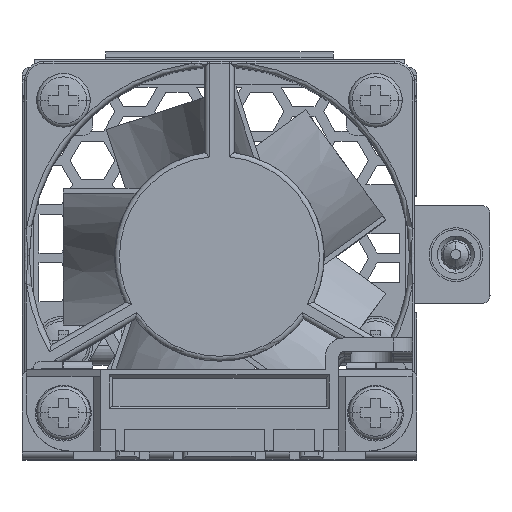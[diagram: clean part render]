
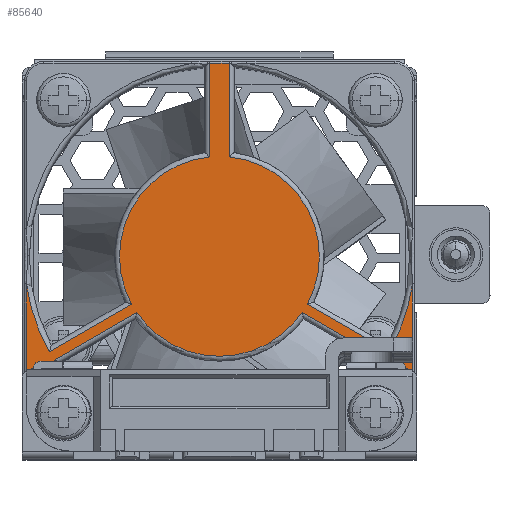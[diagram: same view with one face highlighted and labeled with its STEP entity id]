
A CAD part, top view. The second image highlights one B-rep face of the part: STEP entity #85640.
In plain terms, the highlighted planar face has unit normal (0, 0, 1).
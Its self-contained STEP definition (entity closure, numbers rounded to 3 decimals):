
#83440=CARTESIAN_POINT('',(19.8,2.,56.));
#83450=VERTEX_POINT('',#83440);
#83540=CARTESIAN_POINT('',(18.,0.2,56.));
#83550=VERTEX_POINT('',#83540);
#83580=CARTESIAN_POINT('',(18.,2.,56.));
#83590=DIRECTION('',(0.,0.,-1.));
#83600=DIRECTION('',(1.,0.,0.));
#83610=AXIS2_PLACEMENT_3D('',#83580,#83590,#83600);
#83620=CIRCLE('',#83610,1.8);
#83630=EDGE_CURVE('',#83450,#83550,#83620,.T.);
#83680=CARTESIAN_POINT('',(0.,0.,56.));
#83690=DIRECTION('',(0.,0.,1.));
#83700=DIRECTION('',(1.,0.,0.));
#83710=AXIS2_PLACEMENT_3D('',#83680,#83690,#83700);
#83720=PLANE('',#83710);
#83730=CARTESIAN_POINT('',(1.,30.201,56.));
#83740=DIRECTION('',(0.,1.,0.));
#83750=VECTOR('',#83740,1.);
#83760=LINE('',#83730,#83750);
#83770=CARTESIAN_POINT('',(1.,30.201,56.));
#83780=VERTEX_POINT('',#83770);
#83790=CARTESIAN_POINT('',(1.,39.8,56.));
#83800=VERTEX_POINT('',#83790);
#83810=EDGE_CURVE('',#83780,#83800,#83760,.T.);
#83820=ORIENTED_EDGE('',*,*,#83810,.T.);
#83830=CARTESIAN_POINT('',(0.,20.,56.));
#83840=DIRECTION('',(0.,0.,-1.));
#83850=DIRECTION('',(0.098,0.995,0.));
#83860=AXIS2_PLACEMENT_3D('',#83830,#83840,#83850);
#83870=CIRCLE('',#83860,10.25);
#83880=CARTESIAN_POINT('',(8.999,15.093,56.));
#83890=VERTEX_POINT('',#83880);
#83900=EDGE_CURVE('',#83780,#83890,#83870,.T.);
#83910=ORIENTED_EDGE('',*,*,#83900,.F.);
#83920=CARTESIAN_POINT('',(8.999,15.093,56.));
#83930=DIRECTION('',(0.866,-0.5,0.));
#83940=VECTOR('',#83930,1.);
#83950=LINE('',#83920,#83940);
#83960=CARTESIAN_POINT('',(17.444,10.217,56.));
#83970=VERTEX_POINT('',#83960);
#83980=EDGE_CURVE('',#83890,#83970,#83950,.T.);
#83990=ORIENTED_EDGE('',*,*,#83980,.F.);
#84000=CARTESIAN_POINT('',(0.,20.,56.));
#84010=DIRECTION('',(0.,0.,1.));
#84020=DIRECTION('',(0.872,-0.489,0.));
#84030=AXIS2_PLACEMENT_3D('',#84000,#84010,#84020);
#84040=CIRCLE('',#84030,20.);
#84050=CARTESIAN_POINT('',(19.8,17.179,56.));
#84060=VERTEX_POINT('',#84050);
#84070=EDGE_CURVE('',#83970,#84060,#84040,.T.);
#84080=ORIENTED_EDGE('',*,*,#84070,.F.);
#84090=CARTESIAN_POINT('',(19.8,2.,56.));
#84100=DIRECTION('',(0.,1.,0.));
#84110=VECTOR('',#84100,1.);
#84120=LINE('',#84090,#84110);
#84130=EDGE_CURVE('',#83450,#84060,#84120,.T.);
#84140=ORIENTED_EDGE('',*,*,#84130,.T.);
#84150=ORIENTED_EDGE('',*,*,#83630,.F.);
#84160=CARTESIAN_POINT('',(2.821,0.2,56.));
#84170=DIRECTION('',(1.,0.,0.));
#84180=VECTOR('',#84170,1.);
#84190=LINE('',#84160,#84180);
#84200=CARTESIAN_POINT('',(2.821,0.2,56.));
#84210=VERTEX_POINT('',#84200);
#84220=EDGE_CURVE('',#84210,#83550,#84190,.T.);
#84230=ORIENTED_EDGE('',*,*,#84220,.T.);
#84240=CARTESIAN_POINT('',(0.,20.,56.));
#84250=DIRECTION('',(0.,0.,1.));
#84260=DIRECTION('',(0.141,-0.99,0.));
#84270=AXIS2_PLACEMENT_3D('',#84240,#84250,#84260);
#84280=CIRCLE('',#84270,20.);
#84290=CARTESIAN_POINT('',(16.933,9.358,56.));
#84300=VERTEX_POINT('',#84290);
#84310=EDGE_CURVE('',#84210,#84300,#84280,.T.);
#84320=ORIENTED_EDGE('',*,*,#84310,.F.);
#84330=CARTESIAN_POINT('',(16.933,9.358,56.));
#84340=DIRECTION('',(-0.866,0.5,0.));
#84350=VECTOR('',#84340,1.);
#84360=LINE('',#84330,#84350);
#84370=CARTESIAN_POINT('',(8.478,14.239,56.));
#84380=VERTEX_POINT('',#84370);
#84390=EDGE_CURVE('',#84300,#84380,#84360,.T.);
#84400=ORIENTED_EDGE('',*,*,#84390,.F.);
#84410=CARTESIAN_POINT('',(0.,20.,56.));
#84420=DIRECTION('',(0.,0.,-1.));
#84430=DIRECTION('',(0.827,-0.562,0.));
#84440=AXIS2_PLACEMENT_3D('',#84410,#84420,#84430);
#84450=CIRCLE('',#84440,10.25);
#84460=CARTESIAN_POINT('',(-8.478,14.239,56.));
#84470=VERTEX_POINT('',#84460);
#84480=EDGE_CURVE('',#84380,#84470,#84450,.T.);
#84490=ORIENTED_EDGE('',*,*,#84480,.F.);
#84500=CARTESIAN_POINT('',(-8.478,14.239,56.));
#84510=DIRECTION('',(-0.866,-0.5,0.));
#84520=VECTOR('',#84510,1.);
#84530=LINE('',#84500,#84520);
#84540=CARTESIAN_POINT('',(-16.933,9.358,56.));
#84550=VERTEX_POINT('',#84540);
#84560=EDGE_CURVE('',#84470,#84550,#84530,.T.);
#84570=ORIENTED_EDGE('',*,*,#84560,.F.);
#84580=CARTESIAN_POINT('',(0.,20.,56.));
#84590=DIRECTION('',(0.,0.,1.));
#84600=DIRECTION('',(-0.847,-0.532,0.));
#84610=AXIS2_PLACEMENT_3D('',#84580,#84590,#84600);
#84620=CIRCLE('',#84610,20.);
#84630=CARTESIAN_POINT('',(-2.821,0.2,56.));
#84640=VERTEX_POINT('',#84630);
#84650=EDGE_CURVE('',#84550,#84640,#84620,.T.);
#84660=ORIENTED_EDGE('',*,*,#84650,.F.);
#84670=CARTESIAN_POINT('',(-18.,0.2,56.));
#84680=DIRECTION('',(1.,0.,0.));
#84690=VECTOR('',#84680,1.);
#84700=LINE('',#84670,#84690);
#84710=CARTESIAN_POINT('',(-18.,0.2,56.));
#84720=VERTEX_POINT('',#84710);
#84730=EDGE_CURVE('',#84720,#84640,#84700,.T.);
#84740=ORIENTED_EDGE('',*,*,#84730,.T.);
#84750=CARTESIAN_POINT('',(-18.,2.,56.));
#84760=DIRECTION('',(0.,0.,-1.));
#84770=DIRECTION('',(0.,-1.,0.));
#84780=AXIS2_PLACEMENT_3D('',#84750,#84760,#84770);
#84790=CIRCLE('',#84780,1.8);
#84800=CARTESIAN_POINT('',(-19.8,2.,56.));
#84810=VERTEX_POINT('',#84800);
#84820=EDGE_CURVE('',#84720,#84810,#84790,.T.);
#84830=ORIENTED_EDGE('',*,*,#84820,.F.);
#84840=CARTESIAN_POINT('',(-19.8,17.179,56.));
#84850=DIRECTION('',(0.,-1.,0.));
#84860=VECTOR('',#84850,1.);
#84870=LINE('',#84840,#84860);
#84880=CARTESIAN_POINT('',(-19.8,17.179,56.));
#84890=VERTEX_POINT('',#84880);
#84900=EDGE_CURVE('',#84890,#84810,#84870,.T.);
#84910=ORIENTED_EDGE('',*,*,#84900,.T.);
#84920=CARTESIAN_POINT('',(0.,20.,56.));
#84930=DIRECTION('',(0.,0.,1.));
#84940=DIRECTION('',(-0.99,-0.141,0.));
#84950=AXIS2_PLACEMENT_3D('',#84920,#84930,#84940);
#84960=CIRCLE('',#84950,20.);
#84970=CARTESIAN_POINT('',(-17.444,10.217,56.));
#84980=VERTEX_POINT('',#84970);
#84990=EDGE_CURVE('',#84890,#84980,#84960,.T.);
#85000=ORIENTED_EDGE('',*,*,#84990,.F.);
#85010=CARTESIAN_POINT('',(-17.444,10.217,56.));
#85020=DIRECTION('',(0.866,0.5,0.));
#85030=VECTOR('',#85020,1.);
#85040=LINE('',#85010,#85030);
#85050=CARTESIAN_POINT('',(-8.999,15.093,56.));
#85060=VERTEX_POINT('',#85050);
#85070=EDGE_CURVE('',#84980,#85060,#85040,.T.);
#85080=ORIENTED_EDGE('',*,*,#85070,.F.);
#85090=CARTESIAN_POINT('',(0.,20.,56.));
#85100=DIRECTION('',(0.,0.,-1.));
#85110=DIRECTION('',(-0.878,-0.479,0.));
#85120=AXIS2_PLACEMENT_3D('',#85090,#85100,#85110);
#85130=CIRCLE('',#85120,10.25);
#85140=CARTESIAN_POINT('',(-1.,30.201,56.));
#85150=VERTEX_POINT('',#85140);
#85160=EDGE_CURVE('',#85060,#85150,#85130,.T.);
#85170=ORIENTED_EDGE('',*,*,#85160,.F.);
#85180=CARTESIAN_POINT('',(-1.,39.8,56.));
#85190=DIRECTION('',(0.,-1.,0.));
#85200=VECTOR('',#85190,1.);
#85210=LINE('',#85180,#85200);
#85220=CARTESIAN_POINT('',(-1.,39.8,56.));
#85230=VERTEX_POINT('',#85220);
#85240=EDGE_CURVE('',#85230,#85150,#85210,.T.);
#85250=ORIENTED_EDGE('',*,*,#85240,.T.);
#85260=CARTESIAN_POINT('',(1.,39.8,56.));
#85270=DIRECTION('',(-1.,0.,0.));
#85280=VECTOR('',#85270,1.);
#85290=LINE('',#85260,#85280);
#85300=EDGE_CURVE('',#83800,#85230,#85290,.T.);
#85310=ORIENTED_EDGE('',*,*,#85300,.T.);
#85320=EDGE_LOOP('',(#85310,#85250,#85170,#85080,#85000,#84910,#84830,
#84740,#84660,#84570,#84490,#84400,#84320,#84230,#84150,#84140,#84080,
#83990,#83910,#83820));
#85330=FACE_OUTER_BOUND('',#85320,.T.);
#85340=CARTESIAN_POINT('',(16.,4.,56.));
#85350=DIRECTION('',(0.,0.,1.));
#85360=DIRECTION('',(1.,0.,0.));
#85370=AXIS2_PLACEMENT_3D('',#85340,#85350,#85360);
#85380=CIRCLE('',#85370,1.75);
#85390=CARTESIAN_POINT('',(17.75,4.,56.));
#85400=VERTEX_POINT('',#85390);
#85410=CARTESIAN_POINT('',(14.25,4.,56.));
#85420=VERTEX_POINT('',#85410);
#85430=EDGE_CURVE('',#85400,#85420,#85380,.T.);
#85440=ORIENTED_EDGE('',*,*,#85430,.F.);
#85450=EDGE_CURVE('',#85420,#85400,#85380,.T.);
#85460=ORIENTED_EDGE('',*,*,#85450,.F.);
#85470=EDGE_LOOP('',(#85460,#85440));
#85480=FACE_BOUND('',#85470,.T.);
#85490=CARTESIAN_POINT('',(-16.,4.,56.));
#85500=DIRECTION('',(0.,0.,1.));
#85510=DIRECTION('',(1.,0.,0.));
#85520=AXIS2_PLACEMENT_3D('',#85490,#85500,#85510);
#85530=CIRCLE('',#85520,1.75);
#85540=CARTESIAN_POINT('',(-17.75,4.,56.));
#85550=VERTEX_POINT('',#85540);
#85560=CARTESIAN_POINT('',(-14.25,4.,56.));
#85570=VERTEX_POINT('',#85560);
#85580=EDGE_CURVE('',#85550,#85570,#85530,.T.);
#85590=ORIENTED_EDGE('',*,*,#85580,.F.);
#85600=EDGE_CURVE('',#85570,#85550,#85530,.T.);
#85610=ORIENTED_EDGE('',*,*,#85600,.F.);
#85620=EDGE_LOOP('',(#85610,#85590));
#85630=FACE_BOUND('',#85620,.T.);
#85640=ADVANCED_FACE('',(#85330,#85480,#85630),#83720,.T.);
